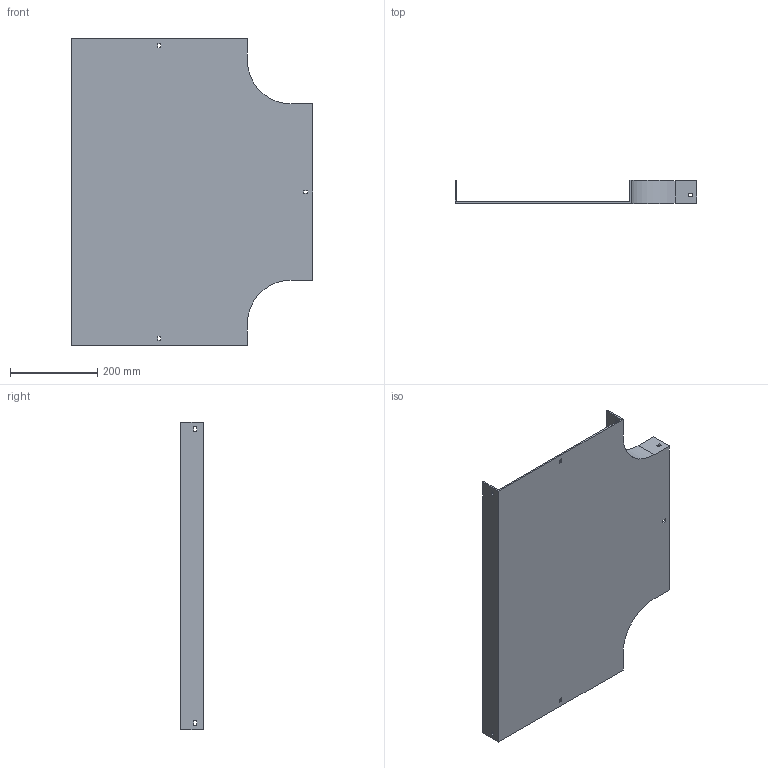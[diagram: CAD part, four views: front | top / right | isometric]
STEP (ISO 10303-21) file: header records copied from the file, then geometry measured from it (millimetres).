
FILE_DESCRIPTION (( 'STEP AP214' ), '1' );
FILE_NAME ('15B1B400.step', '2025-02-21T09:54:21', ( '' ), ( '' ), 'SwSTEP 2.0', 'SolidWorks 2023', '' );
FILE_SCHEMA (( 'AUTOMOTIVE_DESIGN' ));
Length unit declared in the file: millimetre
Products named in the file (1): 15B1B400
Bounding box: 554 x 52 x 704 mm (x, y, z)
Volume: 1428209.7 mm3; surface area: 826683.4 mm2
Topology: 1 solids, 1 shells, 58 faces, 168 edges, 112 vertices
Faces by surface type: plane 54, cylinder 4
Entity records: 1939 total; most frequent: CARTESIAN_POINT 339, ORIENTED_EDGE 336, DIRECTION 294, EDGE_CURVE 168, LINE 160, VECTOR 160, VERTEX_POINT 112, EDGE_LOOP 76
